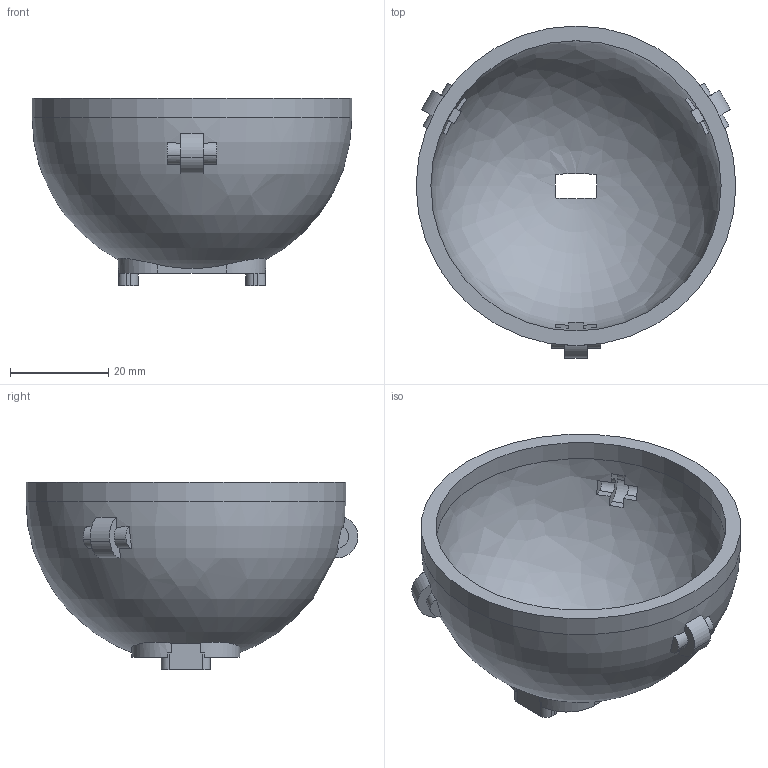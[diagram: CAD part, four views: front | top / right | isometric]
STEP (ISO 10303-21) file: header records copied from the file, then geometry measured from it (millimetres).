
FILE_DESCRIPTION(('Open CASCADE Model'),'2;1');
FILE_NAME('Open CASCADE Shape Model','2026-05-31T19:43:54',('Author'),( 'Open CASCADE'),'Open CASCADE STEP processor 7.6','Open CASCADE 7.6' ,'Unknown');
FILE_SCHEMA(('AP242_MANAGED_MODEL_BASED_3D_ENGINEERING_MIM_LF. {1 0 10303 442 1 1 4 }'));
Length unit declared in the file: millimetre
Products named in the file (1): Open CASCADE STEP translator 7.6 8
Bounding box: 65.15 x 67.63 x 38.17 mm (x, y, z)
Volume: 20626.5 mm3; surface area: 15289.8 mm2
Topology: 1 solids, 1 shells, 142 faces, 398 edges, 264 vertices
Faces by surface type: plane 74, extrusion 36, cylinder 22, bspline 4, revolution 2, sphere 2, cone 2
Full cylindrical faces by diameter (mm): 2.05 x2, 59.15 x1, 65.15 x1
Entity records: 19584 total; most frequent: CARTESIAN_POINT 12043, DIRECTION 1272, ORIENTED_EDGE 792, PCURVE 792, DEFINITIONAL_REPRESENTATION 792, VECTOR 666, LINE 630, EDGE_CURVE 396
